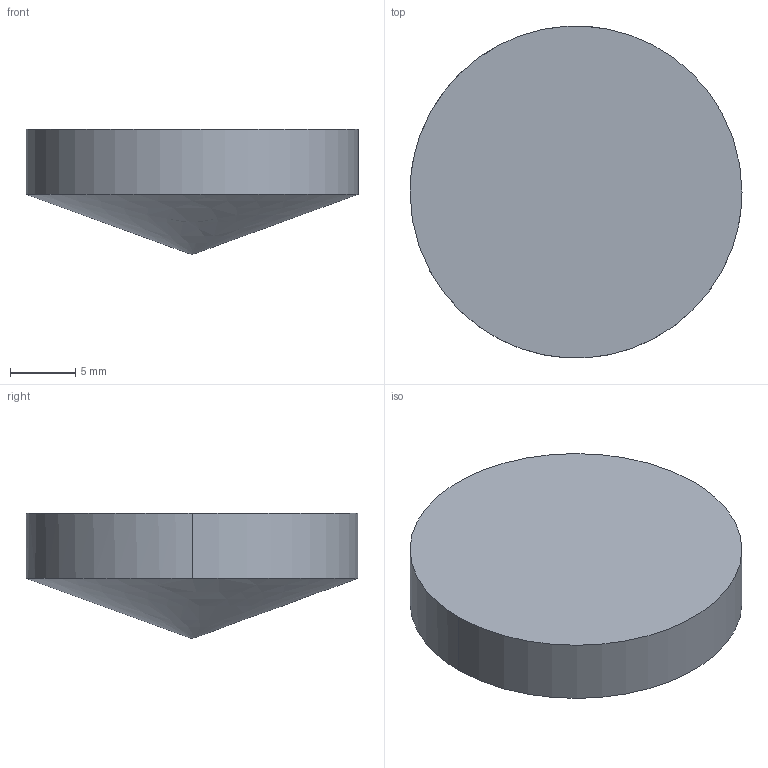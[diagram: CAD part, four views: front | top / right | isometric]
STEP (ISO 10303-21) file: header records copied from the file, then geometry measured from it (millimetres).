
FILE_DESCRIPTION ((), '1');
FILE_NAME ('\\fileserver\Daten\Applikationen\Optikdesign\SPA-Design\aktuelle SPA-Designs\Linsenkataloge - 2016-Juni\Zemax\XFL\XFL25-200.STP', '2016-05-24T14:29:18', ('Unknown'), ('Unknown'), 'HarmonyWare STEP v2.0.1', 'HarmonyWare Translators', '');
FILE_SCHEMA (('CONFIG_CONTROL_DESIGN'));
Length unit declared in the file: millimetre
Products named in the file (1): NONE
Bounding box: 25.4 x 25.37 x 9.6 mm (x, y, z)
Volume: 3305.7 mm3; surface area: 1443.8 mm2
Topology: 1 solids, 1 shells, 4 faces, 9 edges, 6 vertices
Faces by surface type: cylinder 2, bspline 1, plane 1
Entity records: 285 total; most frequent: CARTESIAN_POINT 134, ORIENTED_EDGE 16, EDGE_CURVE 8, PERSON 8, ORGANIZATION 8, PERSON_AND_ORGANIZATION 8, VERTEX_POINT 6, DIRECTION 6
